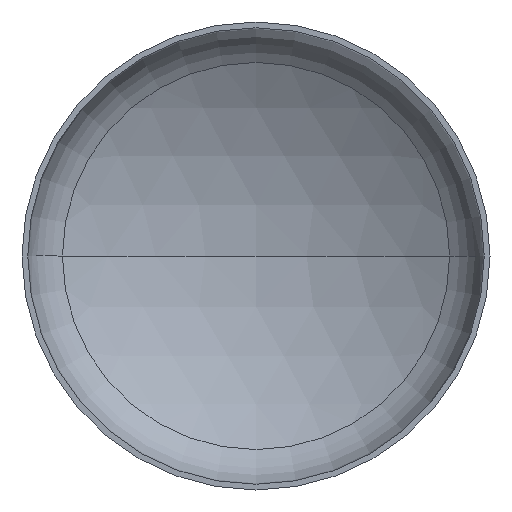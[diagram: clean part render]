
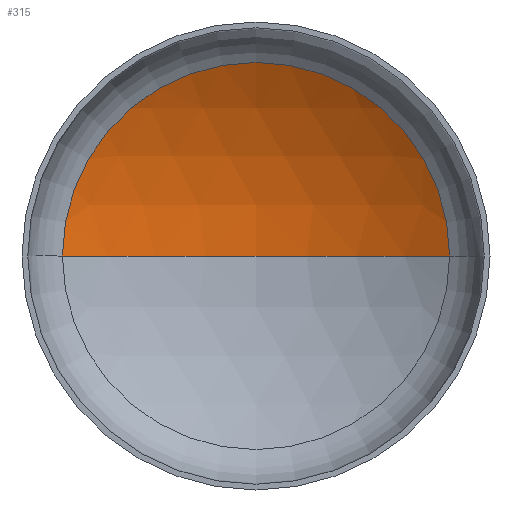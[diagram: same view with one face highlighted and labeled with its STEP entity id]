
A CAD part, front view. The second image highlights one B-rep face of the part: STEP entity #315.
In plain terms, the highlighted spherical face has radius 2400 mm.
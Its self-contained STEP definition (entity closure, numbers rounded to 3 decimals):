
#11 = AXIS2_PLACEMENT_3D ( 'NONE', #388, #389, #136 ) ;
#17 = DIRECTION ( 'NONE',  ( 1., 0., 0. ) ) ;
#21 = VERTEX_POINT ( 'NONE', #252 ) ;
#23 = EDGE_LOOP ( 'NONE', ( #97, #89, #40 ) ) ;
#39 = AXIS2_PLACEMENT_3D ( 'NONE', #260, #258, #255 ) ;
#40 = ORIENTED_EDGE ( 'NONE', *, *, #118, .T. ) ;
#47 = AXIS2_PLACEMENT_3D ( 'NONE', #271, #403, #67 ) ;
#51 = AXIS2_PLACEMENT_3D ( 'NONE', #400, #363, #17 ) ;
#56 = VERTEX_POINT ( 'NONE', #283 ) ;
#67 = DIRECTION ( 'NONE',  ( -1., 0., 0. ) ) ;
#89 = ORIENTED_EDGE ( 'NONE', *, *, #139, .T. ) ;
#97 = ORIENTED_EDGE ( 'NONE', *, *, #162, .F. ) ;
#100 = VERTEX_POINT ( 'NONE', #323 ) ;
#118 = EDGE_CURVE ( 'NONE', #21, #56, #160, .T. ) ;
#136 = DIRECTION ( 'NONE',  ( -1., 0., 0. ) ) ;
#139 = EDGE_CURVE ( 'NONE', #100, #21, #231, .T. ) ;
#152 = CIRCLE ( 'NONE', #39, 2400. ) ;
#160 = CIRCLE ( 'NONE', #51, 1240.825 ) ;
#162 = EDGE_CURVE ( 'NONE', #100, #56, #152, .T. ) ;
#198 = FACE_OUTER_BOUND ( 'NONE', #23, .T. ) ;
#231 = CIRCLE ( 'NONE', #47, 2400. ) ;
#252 = CARTESIAN_POINT ( 'NONE',  ( 1240.825, 513.75, 0. ) ) ;
#255 = DIRECTION ( 'NONE',  ( 1., 0., 0. ) ) ;
#258 = DIRECTION ( 'NONE',  ( 0., 0., 1. ) ) ;
#260 = CARTESIAN_POINT ( 'NONE',  ( 0., -1540.6, 0. ) ) ;
#271 = CARTESIAN_POINT ( 'NONE',  ( 0., -1540.6, 0. ) ) ;
#283 = CARTESIAN_POINT ( 'NONE',  ( -1240.825, 513.75, 0. ) ) ;
#315 = ADVANCED_FACE ( 'NONE', ( #198 ), #383, .F. ) ;
#323 = CARTESIAN_POINT ( 'NONE',  ( 0., 859.4, 0. ) ) ;
#363 = DIRECTION ( 'NONE',  ( 0., -1., 0. ) ) ;
#383 = SPHERICAL_SURFACE ( 'NONE', #11, 2400. ) ;
#388 = CARTESIAN_POINT ( 'NONE',  ( 0., -1540.6, 0. ) ) ;
#389 = DIRECTION ( 'NONE',  ( 0., 0., -1. ) ) ;
#400 = CARTESIAN_POINT ( 'NONE',  ( 0., 513.75, 0. ) ) ;
#403 = DIRECTION ( 'NONE',  ( 0., 0., -1. ) ) ;
